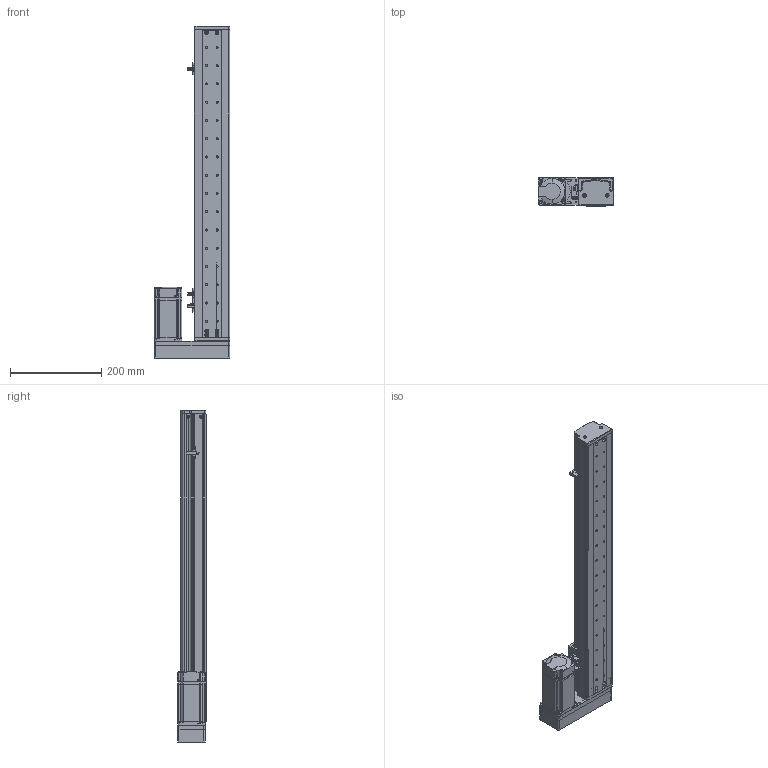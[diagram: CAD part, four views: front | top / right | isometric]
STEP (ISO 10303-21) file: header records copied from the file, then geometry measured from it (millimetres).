
FILE_DESCRIPTION (( 'STEP AP214' ), '1' );
FILE_NAME ('KSD75S-S520-MR-CM.STEP', '2019-10-18T07:20:23', ( '微软用户' ), ( '微软中国' ), 'SwSTEP 2.0', 'SolidWorks 2014', '' );
FILE_SCHEMA (( 'AUTOMOTIVE_DESIGN' ));
Length unit declared in the file: millimetre
Products named in the file (13): MHMD042G1CA_2_03; 75宽模组保护罩左右折; 75宽马达安装板连板左右折丝杆; 覜茼え100遵圉猾敕; U倰嫖萇EEㄜSX672; 綴傷啣 ; ヶ傷啣; 75裔啣-520俴最; 75遵耀郪耜啣-520俴最; 75遵賑雄釱; MGW15H賑寢520俴最 ; 520俴最; KSD75S-S520-MR-CM
Assembly tree (15 placements, depth 3):
  KSD75S-S520-MR-CM
    MGW15H賑寢520俴最 
      520俴最
    75遵賑雄釱
    75遵耀郪耜啣-520俴最  x2
    75裔啣-520俴最
    ヶ傷啣
    綴傷啣 
    U倰嫖萇EEㄜSX672  x3
    覜茼え100遵圉猾敕
    75宽马达安装板连板左右折丝杆
    75宽模组保护罩左右折
    MHMD042G1CA_2_03
Bounding box: 165 x 63 x 727.5 mm (x, y, z)
Volume: 947063.2 mm3; surface area: 596305.9 mm2
Topology: 13 solids, 14 shells, 1493 faces, 4210 edges, 2749 vertices
Faces by surface type: cylinder 715, plane 631, cone 129, bspline 18
Entity records: 47842 total; most frequent: CARTESIAN_POINT 9068, DIRECTION 7184, ORIENTED_EDGE 6700, EDGE_CURVE 3421, AXIS2_PLACEMENT_3D 2644, VERTEX_POINT 2267, VECTOR 1896, LINE 1896
